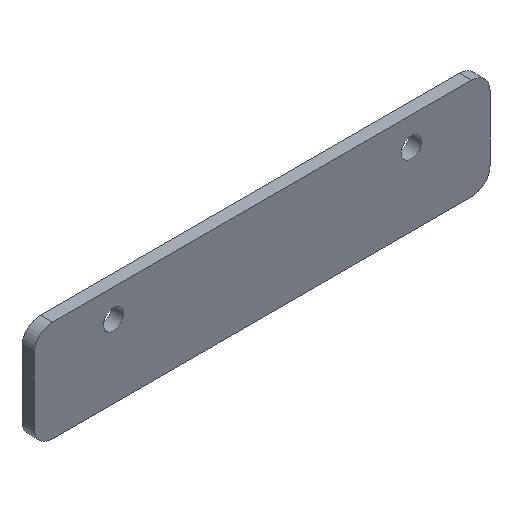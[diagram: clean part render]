
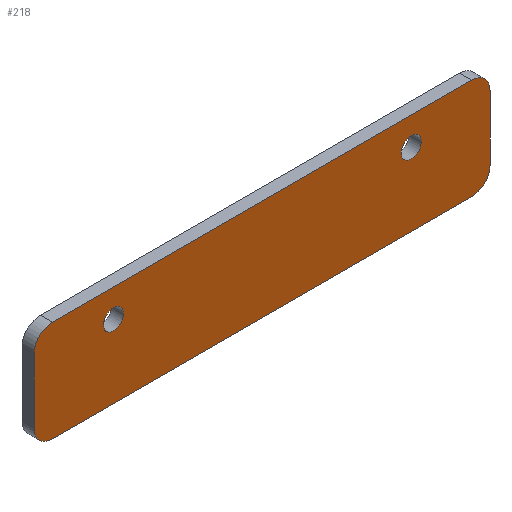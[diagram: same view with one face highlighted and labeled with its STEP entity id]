
A CAD part, isometric view. The second image highlights one B-rep face of the part: STEP entity #218.
In plain terms, the highlighted planar face has unit normal (0, -1, 0).
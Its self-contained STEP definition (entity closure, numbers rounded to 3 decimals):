
#15=FACE_BOUND('',#39,.T.);
#16=FACE_BOUND('',#40,.T.);
#19=PLANE('',#246);
#26=FACE_OUTER_BOUND('',#38,.T.);
#38=EDGE_LOOP('',(#155,#156,#157,#158,#159,#160,#161,#162));
#39=EDGE_LOOP('',(#163));
#40=EDGE_LOOP('',(#164));
#55=LINE('',#347,#73);
#56=LINE('',#351,#74);
#57=LINE('',#355,#75);
#58=LINE('',#358,#76);
#73=VECTOR('',#279,10.);
#74=VECTOR('',#282,10.);
#75=VECTOR('',#285,10.);
#76=VECTOR('',#288,10.);
#90=CIRCLE('',#245,3.);
#91=CIRCLE('',#247,3.);
#92=CIRCLE('',#248,3.);
#93=CIRCLE('',#249,3.);
#94=CIRCLE('',#250,1.65);
#95=CIRCLE('',#251,1.65);
#103=VERTEX_POINT('',#340);
#104=VERTEX_POINT('',#342);
#105=VERTEX_POINT('',#346);
#106=VERTEX_POINT('',#348);
#107=VERTEX_POINT('',#350);
#108=VERTEX_POINT('',#352);
#109=VERTEX_POINT('',#354);
#110=VERTEX_POINT('',#356);
#111=VERTEX_POINT('',#359);
#112=VERTEX_POINT('',#361);
#123=EDGE_CURVE('',#103,#104,#90,.T.);
#125=EDGE_CURVE('',#105,#103,#55,.T.);
#126=EDGE_CURVE('',#106,#105,#91,.T.);
#127=EDGE_CURVE('',#107,#106,#56,.T.);
#128=EDGE_CURVE('',#108,#107,#92,.T.);
#129=EDGE_CURVE('',#109,#108,#57,.T.);
#130=EDGE_CURVE('',#110,#109,#93,.T.);
#131=EDGE_CURVE('',#104,#110,#58,.T.);
#132=EDGE_CURVE('',#111,#111,#94,.T.);
#133=EDGE_CURVE('',#112,#112,#95,.T.);
#155=ORIENTED_EDGE('',*,*,#123,.F.);
#156=ORIENTED_EDGE('',*,*,#125,.F.);
#157=ORIENTED_EDGE('',*,*,#126,.F.);
#158=ORIENTED_EDGE('',*,*,#127,.F.);
#159=ORIENTED_EDGE('',*,*,#128,.F.);
#160=ORIENTED_EDGE('',*,*,#129,.F.);
#161=ORIENTED_EDGE('',*,*,#130,.F.);
#162=ORIENTED_EDGE('',*,*,#131,.F.);
#163=ORIENTED_EDGE('',*,*,#132,.F.);
#164=ORIENTED_EDGE('',*,*,#133,.F.);
#218=ADVANCED_FACE('',(#26,#15,#16),#19,.F.);
#245=AXIS2_PLACEMENT_3D('',#343,#274,#275);
#246=AXIS2_PLACEMENT_3D('',#345,#277,#278);
#247=AXIS2_PLACEMENT_3D('',#349,#280,#281);
#248=AXIS2_PLACEMENT_3D('',#353,#283,#284);
#249=AXIS2_PLACEMENT_3D('',#357,#286,#287);
#250=AXIS2_PLACEMENT_3D('',#360,#289,#290);
#251=AXIS2_PLACEMENT_3D('',#362,#291,#292);
#274=DIRECTION('center_axis',(0.,1.,0.));
#275=DIRECTION('ref_axis',(-0.707,0.,-0.707));
#277=DIRECTION('center_axis',(0.,1.,0.));
#278=DIRECTION('ref_axis',(-1.,0.,0.));
#279=DIRECTION('',(-1.,0.,0.));
#280=DIRECTION('center_axis',(0.,1.,0.));
#281=DIRECTION('ref_axis',(1.,0.,0.));
#282=DIRECTION('',(0.,0.,-1.));
#283=DIRECTION('center_axis',(0.,1.,0.));
#284=DIRECTION('ref_axis',(0.,0.,1.));
#285=DIRECTION('',(1.,0.,0.));
#286=DIRECTION('center_axis',(0.,1.,0.));
#287=DIRECTION('ref_axis',(-1.,0.,0.));
#288=DIRECTION('',(0.,0.,1.));
#289=DIRECTION('center_axis',(0.,-1.,0.));
#290=DIRECTION('ref_axis',(-1.,0.,0.));
#291=DIRECTION('center_axis',(0.,-1.,0.));
#292=DIRECTION('ref_axis',(-1.,0.,0.));
#340=CARTESIAN_POINT('',(104.173,13.7,-2.424));
#342=CARTESIAN_POINT('',(101.173,13.7,0.576));
#343=CARTESIAN_POINT('Origin',(104.173,13.7,0.576));
#345=CARTESIAN_POINT('Origin',(138.673,13.7,5.891));
#346=CARTESIAN_POINT('',(173.174,13.7,-2.424));
#347=CARTESIAN_POINT('',(173.174,13.7,-2.424));
#348=CARTESIAN_POINT('',(176.174,13.7,0.576));
#349=CARTESIAN_POINT('Origin',(173.174,13.7,0.576));
#350=CARTESIAN_POINT('',(176.174,13.7,11.205));
#351=CARTESIAN_POINT('',(176.174,13.7,11.205));
#352=CARTESIAN_POINT('',(173.174,13.7,14.205));
#353=CARTESIAN_POINT('Origin',(173.174,13.7,11.205));
#354=CARTESIAN_POINT('',(104.173,13.7,14.205));
#355=CARTESIAN_POINT('',(104.173,13.7,14.205));
#356=CARTESIAN_POINT('',(101.173,13.7,11.205));
#357=CARTESIAN_POINT('Origin',(104.173,13.7,11.205));
#358=CARTESIAN_POINT('',(101.173,13.7,-21.924));
#359=CARTESIAN_POINT('',(164.881,13.7,9.606));
#360=CARTESIAN_POINT('Origin',(163.231,13.7,9.606));
#361=CARTESIAN_POINT('',(115.881,13.7,9.606));
#362=CARTESIAN_POINT('Origin',(114.231,13.7,9.606));
